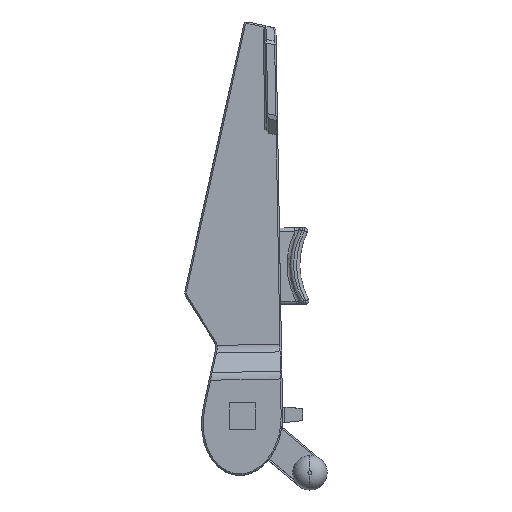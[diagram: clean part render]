
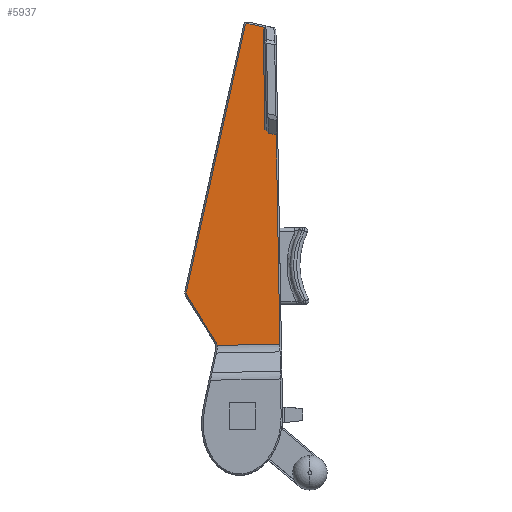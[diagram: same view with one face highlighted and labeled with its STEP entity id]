
A CAD part, left-side view. The second image highlights one B-rep face of the part: STEP entity #5937.
In plain terms, the highlighted planar face has unit normal (-1, 0, 0).
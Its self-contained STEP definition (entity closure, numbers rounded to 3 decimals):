
#36 = DIRECTION ( 'NONE',  ( -1., 0., 0. ) ) ;
#224 = DIRECTION ( 'NONE',  ( -1., 0., 0. ) ) ;
#447 = CARTESIAN_POINT ( 'NONE',  ( -41.3, -6.144, 102.007 ) ) ;
#488 = LINE ( 'NONE', #447, #2922 ) ;
#557 = CARTESIAN_POINT ( 'NONE',  ( -41.3, 14.609, 32.841 ) ) ;
#799 = CARTESIAN_POINT ( 'NONE',  ( -41.3, -1.413, 102.628 ) ) ;
#867 = ORIENTED_EDGE ( 'NONE', *, *, #6247, .T. ) ;
#875 = AXIS2_PLACEMENT_3D ( 'NONE', #1094, #3073, #7192 ) ;
#882 = ORIENTED_EDGE ( 'NONE', *, *, #7511, .F. ) ;
#959 = DIRECTION ( 'NONE',  ( 0., 0., 1. ) ) ;
#1094 = CARTESIAN_POINT ( 'NONE',  ( -41.3, -1.284, 102.042 ) ) ;
#1196 = LINE ( 'NONE', #3171, #6447 ) ;
#1212 = CARTESIAN_POINT ( 'NONE',  ( -41.3, 14.609, 32.841 ) ) ;
#1217 = CARTESIAN_POINT ( 'NONE',  ( -41.3, -10.173, 18.814 ) ) ;
#1221 = LINE ( 'NONE', #7407, #7181 ) ;
#1428 = ORIENTED_EDGE ( 'NONE', *, *, #5749, .T. ) ;
#1433 = VERTEX_POINT ( 'NONE', #1767 ) ;
#1511 = DIRECTION ( 'NONE',  ( 0., 0.976, 0.216 ) ) ;
#1706 = VECTOR ( 'NONE', #1985, 1000. ) ;
#1767 = CARTESIAN_POINT ( 'NONE',  ( -41.3, 7.026, 19.573 ) ) ;
#1841 = VECTOR ( 'NONE', #8678, 1000. ) ;
#1878 = ORIENTED_EDGE ( 'NONE', *, *, #2573, .T. ) ;
#1907 = LINE ( 'NONE', #557, #1841 ) ;
#1930 = EDGE_CURVE ( 'NONE', #2618, #2488, #488, .T. ) ;
#1951 = VERTEX_POINT ( 'NONE', #8871 ) ;
#1962 = VERTEX_POINT ( 'NONE', #2721 ) ;
#1985 = DIRECTION ( 'NONE',  ( 0., 0.668, 0.744 ) ) ;
#2046 = EDGE_CURVE ( 'NONE', #5809, #1962, #5344, .T. ) ;
#2108 = VERTEX_POINT ( 'NONE', #8043 ) ;
#2150 = EDGE_CURVE ( 'NONE', #7972, #3585, #6011, .T. ) ;
#2403 = ORIENTED_EDGE ( 'NONE', *, *, #3839, .T. ) ;
#2488 = VERTEX_POINT ( 'NONE', #2761 ) ;
#2502 = ORIENTED_EDGE ( 'NONE', *, *, #2046, .T. ) ;
#2534 = DIRECTION ( 'NONE',  ( 0., -0.53, -0.848 ) ) ;
#2573 = EDGE_CURVE ( 'NONE', #6956, #6663, #8449, .T. ) ;
#2582 = CARTESIAN_POINT ( 'NONE',  ( -41.3, 6.619, 18.521 ) ) ;
#2618 = VERTEX_POINT ( 'NONE', #5005 ) ;
#2721 = CARTESIAN_POINT ( 'NONE',  ( -41.3, -9.773, 18.807 ) ) ;
#2761 = CARTESIAN_POINT ( 'NONE',  ( -41.3, -5.845, 101.65 ) ) ;
#2838 = EDGE_LOOP ( 'NONE', ( #7015, #6229, #2403, #867, #7687, #1878, #1428, #8209, #2502, #6742, #882, #5320 ) ) ;
#2878 = VECTOR ( 'NONE', #6720, 1000. ) ;
#2899 = FACE_OUTER_BOUND ( 'NONE', #2838, .T. ) ;
#2922 = VECTOR ( 'NONE', #8697, 1000. ) ;
#3042 = CARTESIAN_POINT ( 'NONE',  ( -41.3, -6.797, 73.961 ) ) ;
#3073 = DIRECTION ( 'NONE',  ( -1., 0., 0. ) ) ;
#3078 = DIRECTION ( 'NONE',  ( 0., 0., 1. ) ) ;
#3171 = CARTESIAN_POINT ( 'NONE',  ( -41.3, 7.026, 19.573 ) ) ;
#3416 = EDGE_CURVE ( 'NONE', #1433, #5809, #7416, .T. ) ;
#3585 = VERTEX_POINT ( 'NONE', #4741 ) ;
#3619 = PLANE ( 'NONE',  #4007 ) ;
#3640 = DIRECTION ( 'NONE',  ( 0., 0.017, 1. ) ) ;
#3839 = EDGE_CURVE ( 'NONE', #2488, #2108, #8289, .T. ) ;
#3863 = CARTESIAN_POINT ( 'NONE',  ( -41.3, -0.698, 102.172 ) ) ;
#4007 = AXIS2_PLACEMENT_3D ( 'NONE', #6394, #224, #3078 ) ;
#4421 = EDGE_CURVE ( 'NONE', #8512, #6956, #1907, .T. ) ;
#4736 = CARTESIAN_POINT ( 'NONE',  ( -41.3, 12.558, 32.388 ) ) ;
#4741 = CARTESIAN_POINT ( 'NONE',  ( -41.3, -5.874, 74.99 ) ) ;
#5005 = CARTESIAN_POINT ( 'NONE',  ( -41.3, -5.418, 101.138 ) ) ;
#5167 = EDGE_CURVE ( 'NONE', #1962, #1951, #6510, .T. ) ;
#5320 = ORIENTED_EDGE ( 'NONE', *, *, #2150, .T. ) ;
#5344 = LINE ( 'NONE', #1217, #7785 ) ;
#5589 = CIRCLE ( 'NONE', #875, 0.6 ) ;
#5749 = EDGE_CURVE ( 'NONE', #6663, #1433, #1196, .T. ) ;
#5809 = VERTEX_POINT ( 'NONE', #2582 ) ;
#5937 = ADVANCED_FACE ( 'NONE', ( #2899 ), #3619, .T. ) ;
#6011 = LINE ( 'NONE', #8759, #1706 ) ;
#6135 = CARTESIAN_POINT ( 'NONE',  ( -41.3, -6.29, 74.073 ) ) ;
#6164 = DIRECTION ( 'NONE',  ( 0., 0., 1. ) ) ;
#6229 = ORIENTED_EDGE ( 'NONE', *, *, #1930, .T. ) ;
#6247 = EDGE_CURVE ( 'NONE', #2108, #8512, #5589, .T. ) ;
#6394 = CARTESIAN_POINT ( 'NONE',  ( -41.3, 0.1, -1.036 ) ) ;
#6447 = VECTOR ( 'NONE', #2534, 1000. ) ;
#6510 = LINE ( 'NONE', #7050, #6716 ) ;
#6637 = CARTESIAN_POINT ( 'NONE',  ( -41.3, 14.339, 31.276 ) ) ;
#6663 = VERTEX_POINT ( 'NONE', #6637 ) ;
#6716 = VECTOR ( 'NONE', #3640, 1000. ) ;
#6720 = DIRECTION ( 'NONE',  ( 0., -0.976, -0.216 ) ) ;
#6742 = ORIENTED_EDGE ( 'NONE', *, *, #5167, .T. ) ;
#6776 = DIRECTION ( 'NONE',  ( 0., -1., 0.017 ) ) ;
#6956 = VERTEX_POINT ( 'NONE', #1212 ) ;
#7015 = ORIENTED_EDGE ( 'NONE', *, *, #8034, .T. ) ;
#7049 = DIRECTION ( 'NONE',  ( 1., 0., 0. ) ) ;
#7050 = CARTESIAN_POINT ( 'NONE',  ( -41.3, -8.82, 73.419 ) ) ;
#7093 = CARTESIAN_POINT ( 'NONE',  ( -41.3, 9.57, 17.983 ) ) ;
#7116 = DIRECTION ( 'NONE',  ( 0., 0.017, 1. ) ) ;
#7181 = VECTOR ( 'NONE', #7116, 1000. ) ;
#7192 = DIRECTION ( 'NONE',  ( 0., 0., 1. ) ) ;
#7266 = VECTOR ( 'NONE', #1511, 1000. ) ;
#7407 = CARTESIAN_POINT ( 'NONE',  ( -41.3, -7.199, -0.908 ) ) ;
#7416 = CIRCLE ( 'NONE', #7554, 3. ) ;
#7485 = LINE ( 'NONE', #6135, #2878 ) ;
#7511 = EDGE_CURVE ( 'NONE', #7972, #1951, #7485, .T. ) ;
#7554 = AXIS2_PLACEMENT_3D ( 'NONE', #7093, #7049, #959 ) ;
#7687 = ORIENTED_EDGE ( 'NONE', *, *, #4421, .T. ) ;
#7785 = VECTOR ( 'NONE', #6776, 1000. ) ;
#7972 = VERTEX_POINT ( 'NONE', #3042 ) ;
#8034 = EDGE_CURVE ( 'NONE', #3585, #2618, #1221, .T. ) ;
#8043 = CARTESIAN_POINT ( 'NONE',  ( -41.3, -1.413, 102.628 ) ) ;
#8209 = ORIENTED_EDGE ( 'NONE', *, *, #3416, .T. ) ;
#8289 = LINE ( 'NONE', #799, #7266 ) ;
#8431 = AXIS2_PLACEMENT_3D ( 'NONE', #4736, #36, #6164 ) ;
#8449 = CIRCLE ( 'NONE', #8431, 2.1 ) ;
#8512 = VERTEX_POINT ( 'NONE', #3863 ) ;
#8678 = DIRECTION ( 'NONE',  ( 0., 0.216, -0.976 ) ) ;
#8697 = DIRECTION ( 'NONE',  ( 0., -0.641, 0.767 ) ) ;
#8759 = CARTESIAN_POINT ( 'NONE',  ( -41.3, -4.742, 76.252 ) ) ;
#8871 = CARTESIAN_POINT ( 'NONE',  ( -41.3, -8.818, 73.515 ) ) ;
